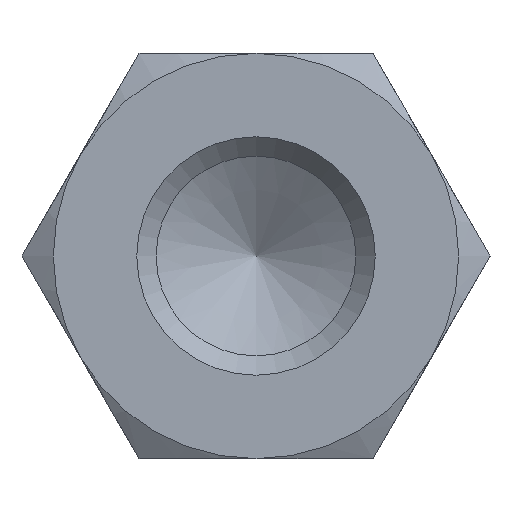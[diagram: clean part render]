
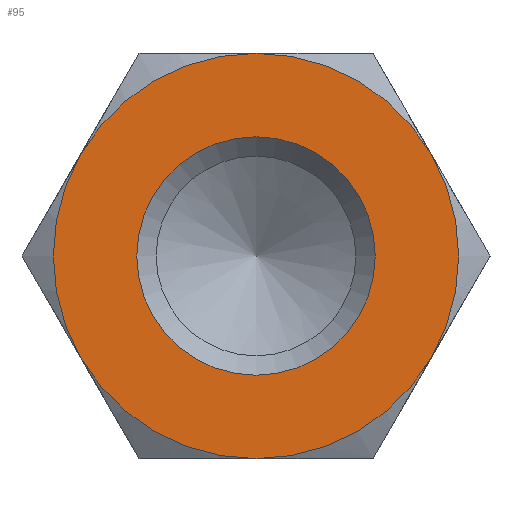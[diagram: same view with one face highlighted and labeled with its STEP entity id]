
A CAD part, left-side view. The second image highlights one B-rep face of the part: STEP entity #95.
In plain terms, the highlighted planar face has unit normal (-1, 0, 0).
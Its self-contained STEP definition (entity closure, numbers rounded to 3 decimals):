
#95 = ADVANCED_FACE( '', ( #147, #148 ), #149, .F. );
#147 = FACE_OUTER_BOUND( '', #206, .T. );
#148 = FACE_BOUND( '', #207, .T. );
#149 = PLANE( '', #208 );
#206 = EDGE_LOOP( '', ( #356, #357, #358, #359, #360, #361 ) );
#207 = EDGE_LOOP( '', ( #362 ) );
#208 = AXIS2_PLACEMENT_3D( '', #363, #364, #365 );
#356 = ORIENTED_EDGE( '', *, *, #440, .F. );
#357 = ORIENTED_EDGE( '', *, *, #425, .F. );
#358 = ORIENTED_EDGE( '', *, *, #441, .F. );
#359 = ORIENTED_EDGE( '', *, *, #437, .F. );
#360 = ORIENTED_EDGE( '', *, *, #442, .F. );
#361 = ORIENTED_EDGE( '', *, *, #443, .F. );
#362 = ORIENTED_EDGE( '', *, *, #439, .T. );
#363 = CARTESIAN_POINT( '', ( -80., 0., 0. ) );
#364 = DIRECTION( '', ( 1., 0., 0. ) );
#365 = DIRECTION( '', ( 0., 0., -1. ) );
#425 = EDGE_CURVE( '', #495, #493, #497, .T. );
#437 = EDGE_CURVE( '', #447, #506, #513, .T. );
#439 = EDGE_CURVE( '', #516, #516, #517, .T. );
#440 = EDGE_CURVE( '', #493, #486, #518, .T. );
#441 = EDGE_CURVE( '', #506, #495, #519, .T. );
#442 = EDGE_CURVE( '', #481, #447, #520, .T. );
#443 = EDGE_CURVE( '', #486, #481, #521, .T. );
#447 = VERTEX_POINT( '', #525 );
#481 = VERTEX_POINT( '', #607 );
#486 = VERTEX_POINT( '', #623 );
#493 = VERTEX_POINT( '', #650 );
#495 = VERTEX_POINT( '', #657 );
#497 = CIRCLE( '', #664, 8.5 );
#506 = VERTEX_POINT( '', #690 );
#513 = CIRCLE( '', #733, 8.5 );
#516 = VERTEX_POINT( '', #736 );
#517 = CIRCLE( '', #737, 5. );
#518 = CIRCLE( '', #738, 8.5 );
#519 = CIRCLE( '', #739, 8.5 );
#520 = CIRCLE( '', #740, 8.5 );
#521 = CIRCLE( '', #741, 8.5 );
#525 = CARTESIAN_POINT( '', ( -80., -7.361, 4.25 ) );
#607 = CARTESIAN_POINT( '', ( -80., 0., 8.5 ) );
#623 = CARTESIAN_POINT( '', ( -80., 7.361, 4.25 ) );
#650 = CARTESIAN_POINT( '', ( -80., 7.361, -4.25 ) );
#657 = CARTESIAN_POINT( '', ( -80., 0., -8.5 ) );
#664 = AXIS2_PLACEMENT_3D( '', #776, #777, #778 );
#690 = CARTESIAN_POINT( '', ( -80., -7.361, -4.25 ) );
#733 = AXIS2_PLACEMENT_3D( '', #781, #782, #783 );
#736 = CARTESIAN_POINT( '', ( -80., 0., -5. ) );
#737 = AXIS2_PLACEMENT_3D( '', #787, #788, #789 );
#738 = AXIS2_PLACEMENT_3D( '', #790, #791, #792 );
#739 = AXIS2_PLACEMENT_3D( '', #793, #794, #795 );
#740 = AXIS2_PLACEMENT_3D( '', #796, #797, #798 );
#741 = AXIS2_PLACEMENT_3D( '', #799, #800, #801 );
#776 = CARTESIAN_POINT( '', ( -80., 0., 0. ) );
#777 = DIRECTION( '', ( 1., 0., 0. ) );
#778 = DIRECTION( '', ( 0., 0., -1. ) );
#781 = CARTESIAN_POINT( '', ( -80., 0., 0. ) );
#782 = DIRECTION( '', ( 1., 0., 0. ) );
#783 = DIRECTION( '', ( 0., 0., -1. ) );
#787 = CARTESIAN_POINT( '', ( -80., 0., 0. ) );
#788 = DIRECTION( '', ( 1., 0., 0. ) );
#789 = DIRECTION( '', ( 0., 0., -1. ) );
#790 = CARTESIAN_POINT( '', ( -80., 0., 0. ) );
#791 = DIRECTION( '', ( 1., 0., 0. ) );
#792 = DIRECTION( '', ( 0., 0., -1. ) );
#793 = CARTESIAN_POINT( '', ( -80., 0., 0. ) );
#794 = DIRECTION( '', ( 1., 0., 0. ) );
#795 = DIRECTION( '', ( 0., 0., -1. ) );
#796 = CARTESIAN_POINT( '', ( -80., 0., 0. ) );
#797 = DIRECTION( '', ( 1., 0., 0. ) );
#798 = DIRECTION( '', ( 0., 0., -1. ) );
#799 = CARTESIAN_POINT( '', ( -80., 0., 0. ) );
#800 = DIRECTION( '', ( 1., 0., 0. ) );
#801 = DIRECTION( '', ( 0., 0., -1. ) );
